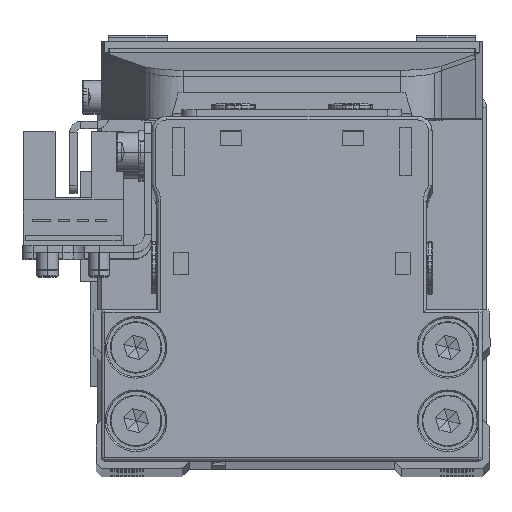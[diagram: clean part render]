
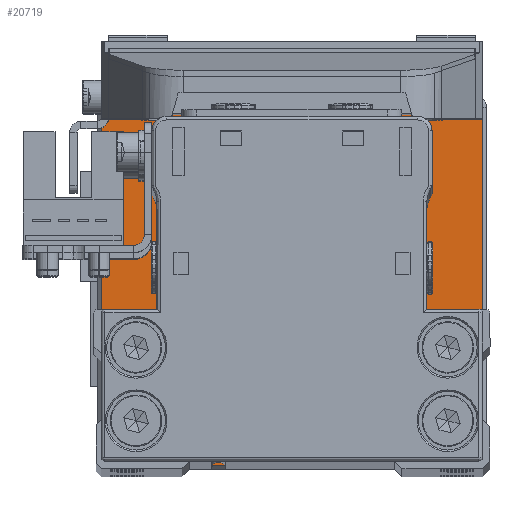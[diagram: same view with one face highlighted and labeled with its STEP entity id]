
A CAD part, top view. The second image highlights one B-rep face of the part: STEP entity #20719.
In plain terms, the highlighted planar face has unit normal (0, 0, 1).
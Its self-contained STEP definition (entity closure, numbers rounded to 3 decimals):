
#144 = VERTEX_POINT ( 'NONE', #11518 ) ;
#239 = EDGE_CURVE ( 'NONE', #31531, #15764, #24310, .T. ) ;
#595 = DIRECTION ( 'NONE',  ( 0., 0., -1. ) ) ;
#684 = VECTOR ( 'NONE', #8804, 1000. ) ;
#785 = VERTEX_POINT ( 'NONE', #22888 ) ;
#1045 = EDGE_CURVE ( 'NONE', #2502, #13221, #22396, .T. ) ;
#1135 = VERTEX_POINT ( 'NONE', #9173 ) ;
#1889 = EDGE_LOOP ( 'NONE', ( #20331, #27382 ) ) ;
#2502 = VERTEX_POINT ( 'NONE', #9361 ) ;
#2640 = CIRCLE ( 'NONE', #21991, 2.4 ) ;
#2856 = CIRCLE ( 'NONE', #22225, 1. ) ;
#2866 = VERTEX_POINT ( 'NONE', #14166 ) ;
#3138 = AXIS2_PLACEMENT_3D ( 'NONE', #4617, #15169, #25754 ) ;
#3193 = CARTESIAN_POINT ( 'NONE',  ( -25., -24.95, 6.5 ) ) ;
#3227 = CIRCLE ( 'NONE', #22571, 1. ) ;
#3248 = AXIS2_PLACEMENT_3D ( 'NONE', #21005, #31557, #7848 ) ;
#3434 = EDGE_CURVE ( 'NONE', #21919, #6180, #2640, .T. ) ;
#3739 = ORIENTED_EDGE ( 'NONE', *, *, #12054, .T. ) ;
#4258 = VERTEX_POINT ( 'NONE', #3193 ) ;
#4617 = CARTESIAN_POINT ( 'NONE',  ( 21.25, 19.95, 6.5 ) ) ;
#5086 = ORIENTED_EDGE ( 'NONE', *, *, #10201, .T. ) ;
#5114 = DIRECTION ( 'NONE',  ( 0., 0., 1. ) ) ;
#5189 = CARTESIAN_POINT ( 'NONE',  ( 0., 0., 6.5 ) ) ;
#5376 = ORIENTED_EDGE ( 'NONE', *, *, #25600, .T. ) ;
#5528 = CARTESIAN_POINT ( 'NONE',  ( -21.25, 19.95, 6.5 ) ) ;
#5934 = EDGE_CURVE ( 'NONE', #2866, #1135, #9918, .T. ) ;
#6180 = VERTEX_POINT ( 'NONE', #22352 ) ;
#6616 = CARTESIAN_POINT ( 'NONE',  ( 25., 24.95, 6.5 ) ) ;
#6894 = CARTESIAN_POINT ( 'NONE',  ( -25., 24.95, 6.5 ) ) ;
#6916 = ORIENTED_EDGE ( 'NONE', *, *, #14128, .T. ) ;
#7016 = ORIENTED_EDGE ( 'NONE', *, *, #8414, .T. ) ;
#7028 = DIRECTION ( 'NONE',  ( 0., 0., -1. ) ) ;
#7378 = CARTESIAN_POINT ( 'NONE',  ( 26., 23.95, 6.5 ) ) ;
#7463 = AXIS2_PLACEMENT_3D ( 'NONE', #8659, #19204, #29781 ) ;
#7778 = FACE_BOUND ( 'NONE', #17799, .T. ) ;
#7848 = DIRECTION ( 'NONE',  ( 1., 0., 0. ) ) ;
#8414 = EDGE_CURVE ( 'NONE', #31324, #30491, #2856, .T. ) ;
#8659 = CARTESIAN_POINT ( 'NONE',  ( -21.25, 19.95, 6.5 ) ) ;
#8702 = CARTESIAN_POINT ( 'NONE',  ( 23.65, 19.95, 6.5 ) ) ;
#8804 = DIRECTION ( 'NONE',  ( 1., 0., 0. ) ) ;
#8924 = VERTEX_POINT ( 'NONE', #12415 ) ;
#9173 = CARTESIAN_POINT ( 'NONE',  ( -26., -23.95, 6.5 ) ) ;
#9174 = DIRECTION ( 'NONE',  ( 0., 0., 1. ) ) ;
#9190 = DIRECTION ( 'NONE',  ( -1., 0., 0. ) ) ;
#9361 = CARTESIAN_POINT ( 'NONE',  ( -23.65, 19.95, 6.5 ) ) ;
#9386 = AXIS2_PLACEMENT_3D ( 'NONE', #12367, #22931, #33477 ) ;
#9454 = DIRECTION ( 'NONE',  ( 0., 0., -1. ) ) ;
#9634 = CARTESIAN_POINT ( 'NONE',  ( 18.85, 9.95, 6.5 ) ) ;
#9918 = LINE ( 'NONE', #20468, #15170 ) ;
#10201 = EDGE_CURVE ( 'NONE', #30491, #785, #30600, .T. ) ;
#10380 = FACE_BOUND ( 'NONE', #32360, .T. ) ;
#10650 = CIRCLE ( 'NONE', #30009, 2.4 ) ;
#11046 = CARTESIAN_POINT ( 'NONE',  ( -25., 23.95, 6.5 ) ) ;
#11149 = DIRECTION ( 'NONE',  ( -1., 0., 0. ) ) ;
#11417 = AXIS2_PLACEMENT_3D ( 'NONE', #11046, #21604, #32151 ) ;
#11518 = CARTESIAN_POINT ( 'NONE',  ( 26., -23.95, 6.5 ) ) ;
#12054 = EDGE_CURVE ( 'NONE', #6180, #21919, #32019, .T. ) ;
#12367 = CARTESIAN_POINT ( 'NONE',  ( 21.25, 9.95, 6.5 ) ) ;
#12372 = AXIS2_PLACEMENT_3D ( 'NONE', #24323, #595, #11149 ) ;
#12415 = CARTESIAN_POINT ( 'NONE',  ( 25., -24.95, 6.5 ) ) ;
#12815 = CARTESIAN_POINT ( 'NONE',  ( -18.85, 19.95, 6.5 ) ) ;
#13221 = VERTEX_POINT ( 'NONE', #12815 ) ;
#13314 = ORIENTED_EDGE ( 'NONE', *, *, #31871, .T. ) ;
#13709 = VECTOR ( 'NONE', #17446, 1000. ) ;
#13844 = ORIENTED_EDGE ( 'NONE', *, *, #32961, .T. ) ;
#13852 = AXIS2_PLACEMENT_3D ( 'NONE', #5189, #15730, #26317 ) ;
#13925 = CIRCLE ( 'NONE', #33282, 2.4 ) ;
#14128 = EDGE_CURVE ( 'NONE', #1135, #4258, #18140, .T. ) ;
#14166 = CARTESIAN_POINT ( 'NONE',  ( -26., 23.95, 6.5 ) ) ;
#14213 = VERTEX_POINT ( 'NONE', #8702 ) ;
#14869 = EDGE_LOOP ( 'NONE', ( #5376, #19594, #6916, #31498, #16240, #13844, #7016, #5086 ) ) ;
#15169 = DIRECTION ( 'NONE',  ( 0., 0., -1. ) ) ;
#15170 = VECTOR ( 'NONE', #31031, 1000. ) ;
#15432 = CARTESIAN_POINT ( 'NONE',  ( 23.65, 9.95, 6.5 ) ) ;
#15652 = DIRECTION ( 'NONE',  ( 1., 0., 0. ) ) ;
#15730 = DIRECTION ( 'NONE',  ( 0., 0., 1. ) ) ;
#15764 = VERTEX_POINT ( 'NONE', #15432 ) ;
#16065 = DIRECTION ( 'NONE',  ( 0., 0., -1. ) ) ;
#16240 = ORIENTED_EDGE ( 'NONE', *, *, #24647, .T. ) ;
#16273 = EDGE_CURVE ( 'NONE', #13221, #2502, #10650, .T. ) ;
#16392 = CARTESIAN_POINT ( 'NONE',  ( 26., 23.95, 6.5 ) ) ;
#17013 = EDGE_LOOP ( 'NONE', ( #3739, #31382 ) ) ;
#17096 = AXIS2_PLACEMENT_3D ( 'NONE', #33163, #9454, #20001 ) ;
#17446 = DIRECTION ( 'NONE',  ( -1., 0., 0. ) ) ;
#17576 = DIRECTION ( 'NONE',  ( -1., 0., 0. ) ) ;
#17799 = EDGE_LOOP ( 'NONE', ( #28271, #25849 ) ) ;
#17925 = DIRECTION ( 'NONE',  ( 0., 1., 0. ) ) ;
#18052 = CIRCLE ( 'NONE', #3138, 2.4 ) ;
#18140 = CIRCLE ( 'NONE', #3248, 1. ) ;
#18328 = FACE_OUTER_BOUND ( 'NONE', #14869, .T. ) ;
#19204 = DIRECTION ( 'NONE',  ( 0., 0., -1. ) ) ;
#19594 = ORIENTED_EDGE ( 'NONE', *, *, #5934, .T. ) ;
#19730 = DIRECTION ( 'NONE',  ( 1., 0., 0. ) ) ;
#20001 = DIRECTION ( 'NONE',  ( -1., 0., 0. ) ) ;
#20331 = ORIENTED_EDGE ( 'NONE', *, *, #239, .T. ) ;
#20468 = CARTESIAN_POINT ( 'NONE',  ( -26., -23.95, 6.5 ) ) ;
#20710 = VECTOR ( 'NONE', #17925, 1000. ) ;
#20719 = ADVANCED_FACE ( 'NONE', ( #10380, #20941, #31494, #7778, #18328 ), #28904, .T. ) ;
#20856 = CARTESIAN_POINT ( 'NONE',  ( 18.85, 19.95, 6.5 ) ) ;
#20941 = FACE_BOUND ( 'NONE', #1889, .T. ) ;
#21005 = CARTESIAN_POINT ( 'NONE',  ( -25., -23.95, 6.5 ) ) ;
#21604 = DIRECTION ( 'NONE',  ( 0., 0., 1. ) ) ;
#21919 = VERTEX_POINT ( 'NONE', #31072 ) ;
#21957 = LINE ( 'NONE', #32507, #684 ) ;
#21991 = AXIS2_PLACEMENT_3D ( 'NONE', #30746, #7028, #17576 ) ;
#22138 = EDGE_CURVE ( 'NONE', #15764, #31531, #13925, .T. ) ;
#22225 = AXIS2_PLACEMENT_3D ( 'NONE', #32885, #9174, #19730 ) ;
#22351 = CARTESIAN_POINT ( 'NONE',  ( 21.25, 9.95, 6.5 ) ) ;
#22352 = CARTESIAN_POINT ( 'NONE',  ( -23.65, 9.95, 6.5 ) ) ;
#22396 = CIRCLE ( 'NONE', #7463, 2.4 ) ;
#22569 = EDGE_CURVE ( 'NONE', #4258, #8924, #21957, .T. ) ;
#22571 = AXIS2_PLACEMENT_3D ( 'NONE', #28831, #5114, #15652 ) ;
#22888 = CARTESIAN_POINT ( 'NONE',  ( -25., 24.95, 6.5 ) ) ;
#22931 = DIRECTION ( 'NONE',  ( 0., 0., -1. ) ) ;
#24310 = CIRCLE ( 'NONE', #9386, 2.4 ) ;
#24323 = CARTESIAN_POINT ( 'NONE',  ( 21.25, 19.95, 6.5 ) ) ;
#24620 = VERTEX_POINT ( 'NONE', #20856 ) ;
#24647 = EDGE_CURVE ( 'NONE', #8924, #144, #3227, .T. ) ;
#25600 = EDGE_CURVE ( 'NONE', #785, #2866, #26341, .T. ) ;
#25754 = DIRECTION ( 'NONE',  ( -1., 0., 0. ) ) ;
#25816 = EDGE_CURVE ( 'NONE', #14213, #24620, #18052, .T. ) ;
#25849 = ORIENTED_EDGE ( 'NONE', *, *, #16273, .T. ) ;
#26317 = DIRECTION ( 'NONE',  ( 1., 0., 0. ) ) ;
#26341 = CIRCLE ( 'NONE', #11417, 1. ) ;
#26641 = DIRECTION ( 'NONE',  ( -1., 0., 0. ) ) ;
#27316 = CIRCLE ( 'NONE', #12372, 2.4 ) ;
#27382 = ORIENTED_EDGE ( 'NONE', *, *, #22138, .T. ) ;
#27627 = ORIENTED_EDGE ( 'NONE', *, *, #25816, .T. ) ;
#28271 = ORIENTED_EDGE ( 'NONE', *, *, #1045, .T. ) ;
#28831 = CARTESIAN_POINT ( 'NONE',  ( 25., -23.95, 6.5 ) ) ;
#28904 = PLANE ( 'NONE',  #13852 ) ;
#29781 = DIRECTION ( 'NONE',  ( -1., 0., 0. ) ) ;
#30009 = AXIS2_PLACEMENT_3D ( 'NONE', #5528, #16065, #26641 ) ;
#30491 = VERTEX_POINT ( 'NONE', #6616 ) ;
#30600 = LINE ( 'NONE', #6894, #13709 ) ;
#30746 = CARTESIAN_POINT ( 'NONE',  ( -21.25, 9.95, 6.5 ) ) ;
#31031 = DIRECTION ( 'NONE',  ( 0., -1., 0. ) ) ;
#31072 = CARTESIAN_POINT ( 'NONE',  ( -18.85, 9.95, 6.5 ) ) ;
#31091 = LINE ( 'NONE', #7378, #20710 ) ;
#31324 = VERTEX_POINT ( 'NONE', #16392 ) ;
#31382 = ORIENTED_EDGE ( 'NONE', *, *, #3434, .T. ) ;
#31494 = FACE_BOUND ( 'NONE', #17013, .T. ) ;
#31498 = ORIENTED_EDGE ( 'NONE', *, *, #22569, .T. ) ;
#31531 = VERTEX_POINT ( 'NONE', #9634 ) ;
#31557 = DIRECTION ( 'NONE',  ( 0., 0., 1. ) ) ;
#31871 = EDGE_CURVE ( 'NONE', #24620, #14213, #27316, .T. ) ;
#32019 = CIRCLE ( 'NONE', #17096, 2.4 ) ;
#32151 = DIRECTION ( 'NONE',  ( 1., 0., 0. ) ) ;
#32360 = EDGE_LOOP ( 'NONE', ( #13314, #27627 ) ) ;
#32507 = CARTESIAN_POINT ( 'NONE',  ( 25., -24.95, 6.5 ) ) ;
#32885 = CARTESIAN_POINT ( 'NONE',  ( 25., 23.95, 6.5 ) ) ;
#32901 = DIRECTION ( 'NONE',  ( 0., 0., -1. ) ) ;
#32961 = EDGE_CURVE ( 'NONE', #144, #31324, #31091, .T. ) ;
#33163 = CARTESIAN_POINT ( 'NONE',  ( -21.25, 9.95, 6.5 ) ) ;
#33282 = AXIS2_PLACEMENT_3D ( 'NONE', #22351, #32901, #9190 ) ;
#33477 = DIRECTION ( 'NONE',  ( -1., 0., 0. ) ) ;
